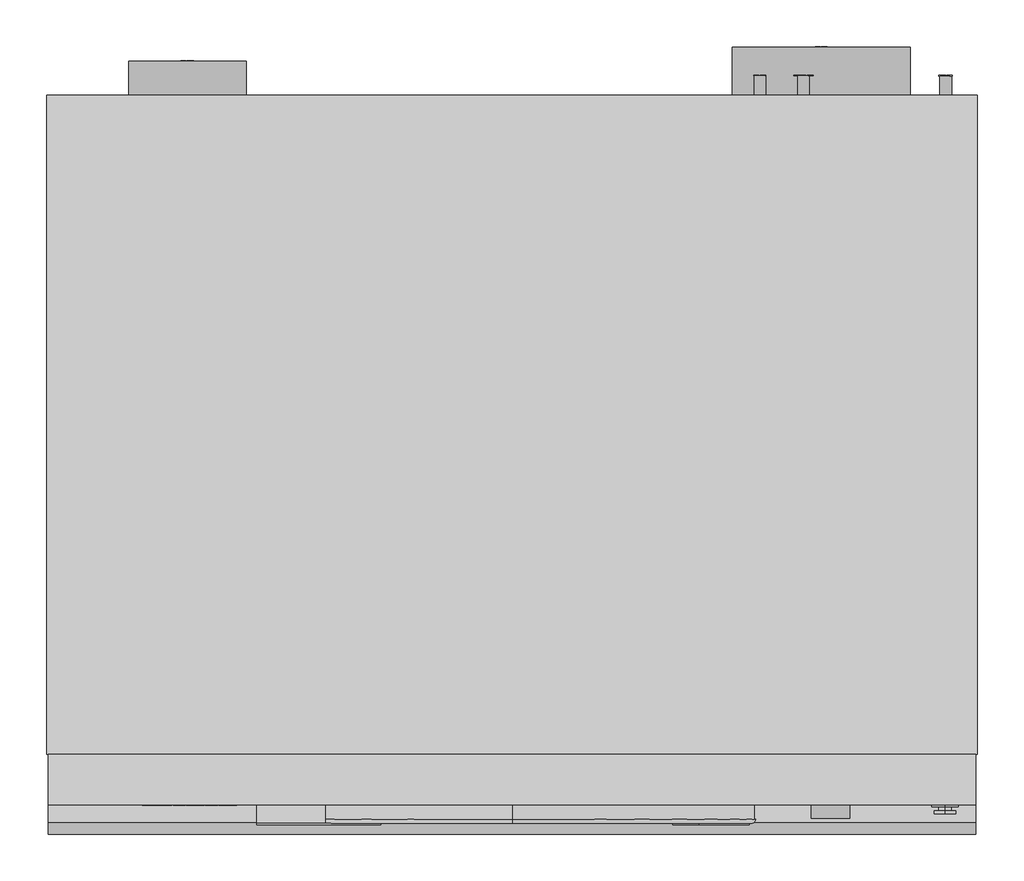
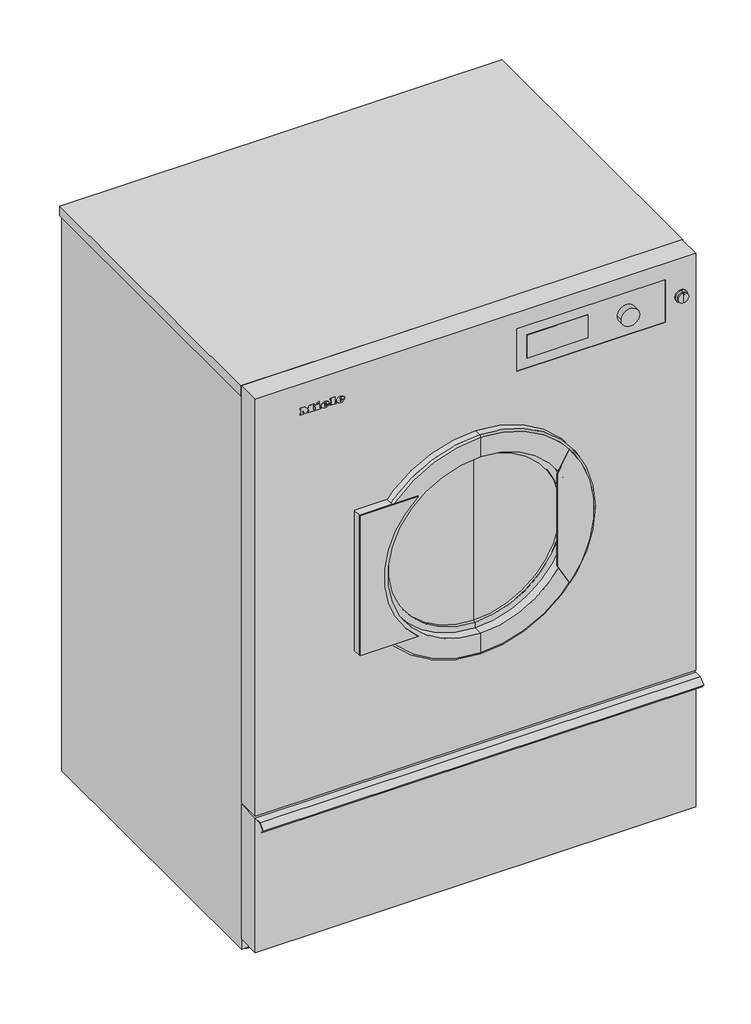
# Not in any storey: 1 proxy.
"""IFC4 building model written with IfcOpenShell, lengths in millimetres."""

from ifc_helpers import new_model, si_unit, origin, place, context, project, spatial, transform, mapped, element, save
from components import specialty_equipment_0d103cda

model = new_model("IFC4")

# Units and contexts
model_context = context("Model", 3, world=origin())
ifc_project = project(units=[si_unit("LENGTHUNIT", "METRE", prefix="MILLI")], contexts=[model_context])

# Site, building
site = spatial("IfcSite", under=ifc_project)
building = spatial("IfcBuilding", under=site)

# Proxy
placement = place(None, origin())
specialty_equipment_shape = specialty_equipment_0d103cda(model_context)
element("IfcBuildingElementProxy", 1, Name="11795780_EU_PDR528ROPEL_SST : 52528005_EU_11795780_PDR528ROPEL_SST", ObjectType="11795780_EU_PDR528ROPEL_SST : 52528005_EU_11795780_PDR528ROPEL_SST", at=placement, inside=building, context=model_context, shape_type="MappedRepresentation", body=[
    mapped(specialty_equipment_shape, transform((0.0, 0.0, 0.0), x_axis=(1.0, 0.0, 0.0), y_axis=(0.0, 1.0, 0.0), z_axis=(0.0, 0.0, 1.0))),
])

save(model, "model.ifc")
